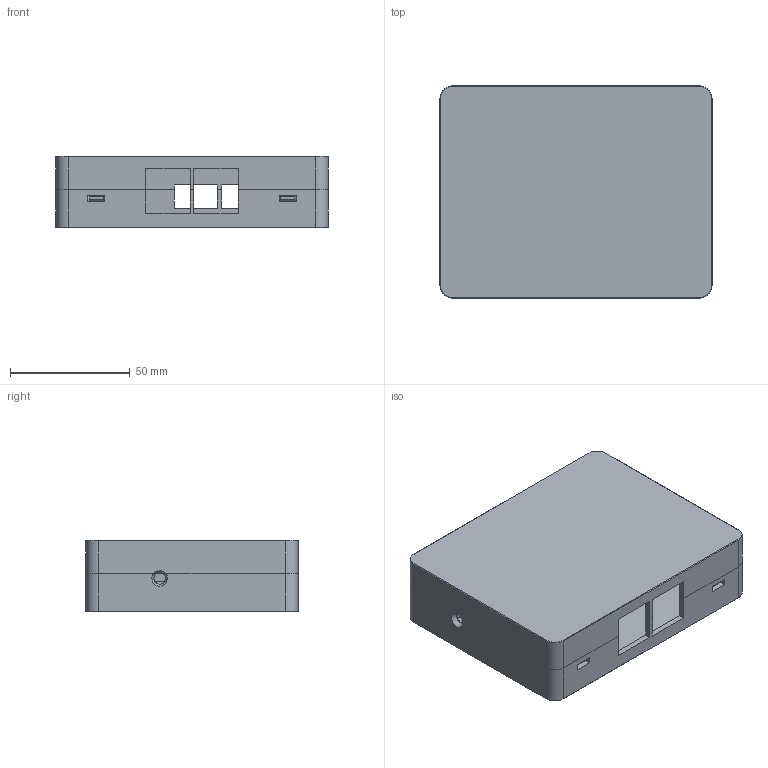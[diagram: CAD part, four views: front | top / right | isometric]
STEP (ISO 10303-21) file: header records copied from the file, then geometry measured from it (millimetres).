
FILE_DESCRIPTION(('Open CASCADE Model'),'2;1');
FILE_NAME('Open CASCADE Shape Model','2026-10-15T17:44:17',('Author'),( 'Open CASCADE'),'Open CASCADE STEP processor 7.9','Open CASCADE 7.9' ,'Unknown');
FILE_SCHEMA(('AUTOMOTIVE_DESIGN { 1 0 10303 214 1 1 1 1 }'));
Length unit declared in the file: millimetre
Products named in the file (3): RODDY_LINK_COMMANDER_SHELL_A; base; lid
Assembly tree (2 placements, depth 2):
  RODDY_LINK_COMMANDER_SHELL_A
    base
    lid
Bounding box: 113.6 x 88.6 x 30 mm (x, y, z)
Volume: 72181.6 mm3; surface area: 63735.9 mm2
Topology: 2 solids, 2 shells, 214 faces, 561 edges, 369 vertices
Faces by surface type: plane 170, cylinder 34, cone 10
Full cylindrical faces by diameter (mm): 2.6 x4, 3.8 x4, 6 x8
Entity records: 13534 total; most frequent: CARTESIAN_POINT 2703, DIRECTION 1817, ORIENTED_EDGE 1122, PCURVE 1122, DEFINITIONAL_REPRESENTATION 1122, LINE 1121, VECTOR 1121, EDGE_CURVE 561
